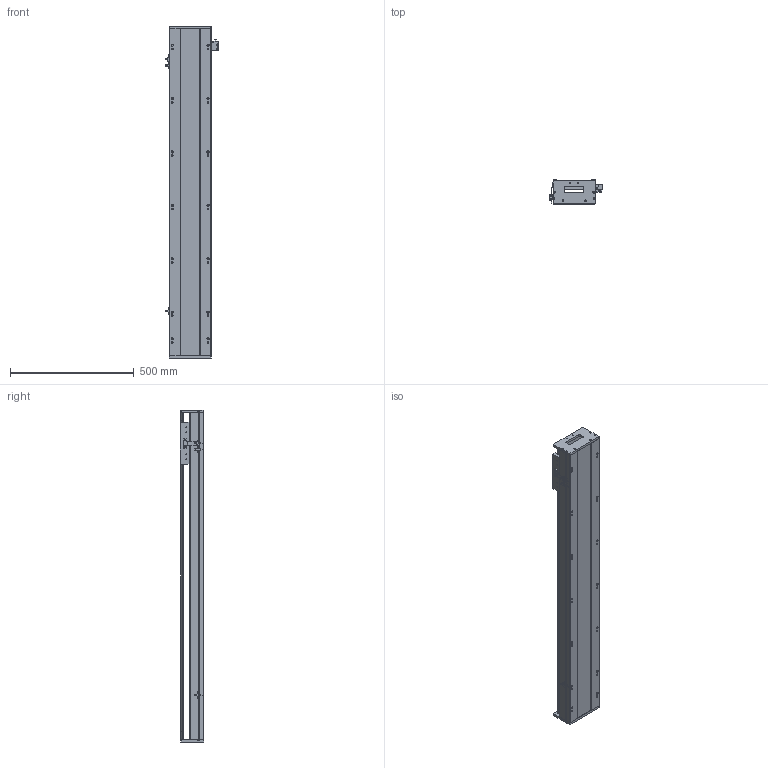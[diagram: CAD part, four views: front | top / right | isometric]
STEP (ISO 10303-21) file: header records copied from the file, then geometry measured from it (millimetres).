
FILE_DESCRIPTION (( 'STEP AP203' ), '1' );
FILE_NAME ('SKR17S-C1-S1074（简）.STEP', '2022-09-29T05:39:11', ( '' ), ( '' ), 'SwSTEP 2.0', 'SolidWorks 2018', '' );
FILE_SCHEMA (( 'CONFIG_CONTROL_DESIGN' ));
Length unit declared in the file: millimetre
Products named in the file (8): 感应片（SKR12S-14S-17S）; SKR17滑台-170L（简）; 棠掑假蚾輸; EE-SX672; SKR17S-C1-S1074（简）; SIKO棠掑; SKR17耜啣; SKR17菁釱-C1-S1074(潠)
Assembly tree (10 placements, depth 2):
  SKR17S-C1-S1074（简）
    SKR17菁釱-C1-S1074(潠)
    SKR17滑台-170L（简）
    SIKO棠掑
    EE-SX672  x3
    SKR17耜啣  x2
    棠掑假蚾輸
    感应片（SKR12S-14S-17S）
Bounding box: 212.7 x 97 x 1344 mm (x, y, z)
Volume: 10568574.5 mm3; surface area: 1326841.4 mm2
Topology: 11 solids, 11 shells, 1137 faces, 3145 edges, 2024 vertices
Faces by surface type: cylinder 536, plane 481, cone 120
Entity records: 34438 total; most frequent: CARTESIAN_POINT 8969, ORIENTED_EDGE 5310, DIRECTION 4956, EDGE_CURVE 2655, AXIS2_PLACEMENT_3D 1763, VERTEX_POINT 1728, LINE 1430, VECTOR 1430
